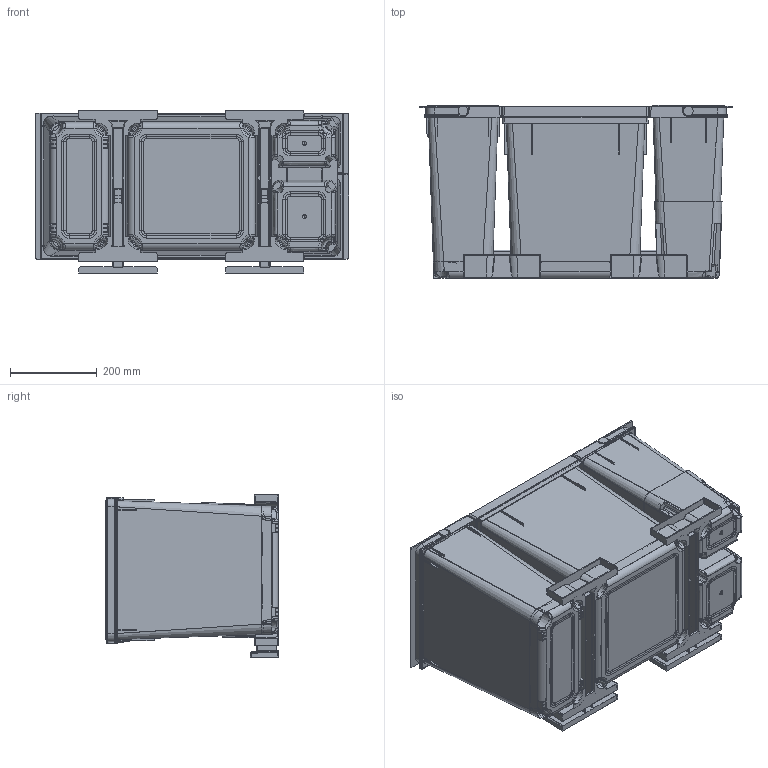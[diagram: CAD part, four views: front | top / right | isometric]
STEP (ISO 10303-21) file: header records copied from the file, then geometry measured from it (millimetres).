
FILE_DESCRIPTION((''),'2;1');
FILE_NAME('80-51-501_X80_L6','2024-09-17T08:45:33',('bru'),(''),'CREO PARAMETRIC BY PTC INC, 2022024','CREO PARAMETRIC BY PTC INC, 2022024','');
FILE_SCHEMA(('AUTOMOTIVE_DESIGN { 1 0 10303 214 1 1 1 1 }'));
Products named in the file (1): 80-51-501_X80_L6
Bounding box: 722.5 x 398.8 x 374 mm (x, y, z)
Volume: 4208363.5 mm3; surface area: 5640025.8 mm2
Topology: 16 solids, 34 shells, 2743 faces, 7376 edges, 4700 vertices
Faces by surface type: plane 1195, cylinder 610, bspline 468, cone 194, torus 156, sphere 88, extrusion 32
Entity records: 126075 total; most frequent: CARTESIAN_POINT 58709, ORIENTED_EDGE 14100, DIRECTION 12494, EDGE_CURVE 7146, VERTEX_POINT 4512, AXIS2_PLACEMENT_3D 4266, VECTOR 3959, LINE 3927
